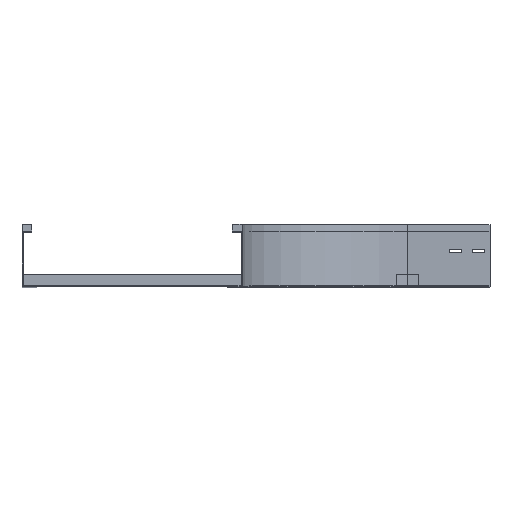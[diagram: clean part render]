
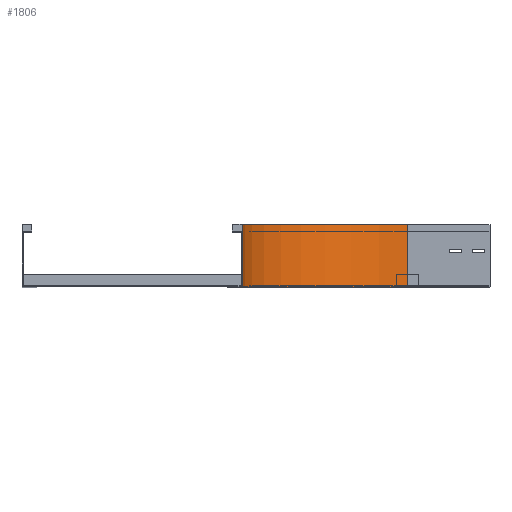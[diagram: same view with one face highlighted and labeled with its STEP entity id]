
A CAD part, top view. The second image highlights one B-rep face of the part: STEP entity #1806.
In plain terms, the highlighted cylindrical face has radius 300 mm (diameter 600 mm), a partial arc.
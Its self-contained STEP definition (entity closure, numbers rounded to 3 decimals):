
#22 = DIRECTION ( 'NONE',  ( 0., 1., 0. ) ) ;
#43 = DIRECTION ( 'NONE',  ( -1., 0., 0. ) ) ;
#136 = DIRECTION ( 'NONE',  ( 0., 0., -1. ) ) ;
#262 = AXIS2_PLACEMENT_3D ( 'NONE', #2448, #3602, #43 ) ;
#484 = EDGE_LOOP ( 'NONE', ( #2074, #1052, #3774, #3000 ) ) ;
#705 = VERTEX_POINT ( 'NONE', #1075 ) ;
#710 = CARTESIAN_POINT ( 'NONE',  ( 300., 0., -150. ) ) ;
#729 = FACE_OUTER_BOUND ( 'NONE', #484, .T. ) ;
#784 = AXIS2_PLACEMENT_3D ( 'NONE', #710, #1056, #136 ) ;
#867 = DIRECTION ( 'NONE',  ( 0., -1., 0. ) ) ;
#962 = AXIS2_PLACEMENT_3D ( 'NONE', #1049, #867, #3245 ) ;
#1049 = CARTESIAN_POINT ( 'NONE',  ( 300., 0., -150. ) ) ;
#1052 = ORIENTED_EDGE ( 'NONE', *, *, #1183, .F. ) ;
#1056 = DIRECTION ( 'NONE',  ( 0., -1., 0. ) ) ;
#1075 = CARTESIAN_POINT ( 'NONE',  ( 300., 112.5, -450. ) ) ;
#1158 = EDGE_CURVE ( 'NONE', #1441, #2928, #2649, .T. ) ;
#1183 = EDGE_CURVE ( 'NONE', #1441, #2794, #2699, .T. ) ;
#1259 = CARTESIAN_POINT ( 'NONE',  ( 0., 0., -150. ) ) ;
#1336 = CARTESIAN_POINT ( 'NONE',  ( 0., 112.5, -150. ) ) ;
#1387 = DIRECTION ( 'NONE',  ( 0., 1., 0. ) ) ;
#1407 = CARTESIAN_POINT ( 'NONE',  ( 300., 0., -450. ) ) ;
#1441 = VERTEX_POINT ( 'NONE', #2855 ) ;
#1705 = CIRCLE ( 'NONE', #262, 300. ) ;
#1762 = CARTESIAN_POINT ( 'NONE',  ( 300., 0., -450. ) ) ;
#1806 = ADVANCED_FACE ( 'NONE', ( #729 ), #2519, .F. ) ;
#1838 = VECTOR ( 'NONE', #22, 1000. ) ;
#2074 = ORIENTED_EDGE ( 'NONE', *, *, #2315, .F. ) ;
#2315 = EDGE_CURVE ( 'NONE', #2794, #705, #1705, .T. ) ;
#2448 = CARTESIAN_POINT ( 'NONE',  ( 300., 112.5, -150. ) ) ;
#2519 = CYLINDRICAL_SURFACE ( 'NONE', #784, 300. ) ;
#2649 = CIRCLE ( 'NONE', #962, 300. ) ;
#2670 = VECTOR ( 'NONE', #1387, 1000. ) ;
#2699 = LINE ( 'NONE', #1259, #1838 ) ;
#2794 = VERTEX_POINT ( 'NONE', #1336 ) ;
#2855 = CARTESIAN_POINT ( 'NONE',  ( 0., 0., -150. ) ) ;
#2864 = LINE ( 'NONE', #1407, #2670 ) ;
#2928 = VERTEX_POINT ( 'NONE', #1762 ) ;
#3000 = ORIENTED_EDGE ( 'NONE', *, *, #3140, .T. ) ;
#3140 = EDGE_CURVE ( 'NONE', #2928, #705, #2864, .T. ) ;
#3245 = DIRECTION ( 'NONE',  ( -1., 0., 0. ) ) ;
#3602 = DIRECTION ( 'NONE',  ( 0., -1., 0. ) ) ;
#3774 = ORIENTED_EDGE ( 'NONE', *, *, #1158, .T. ) ;
